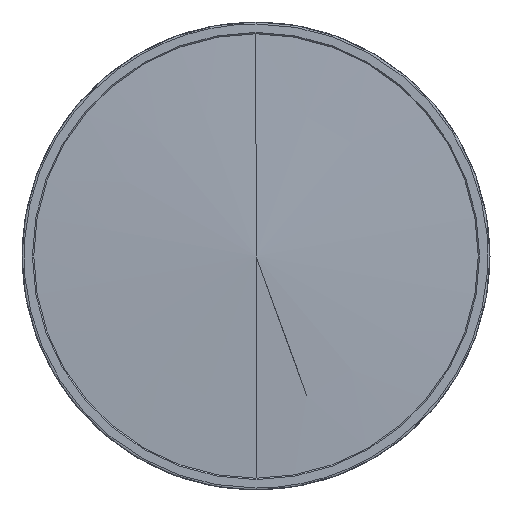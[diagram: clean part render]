
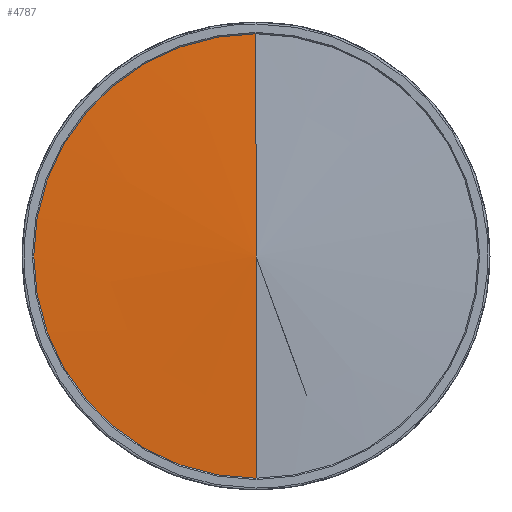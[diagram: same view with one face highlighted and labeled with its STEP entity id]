
A CAD part, left-side view. The second image highlights one B-rep face of the part: STEP entity #4787.
In plain terms, the highlighted conical face has half-angle 87.414 degrees and reference radius 176.573 mm.
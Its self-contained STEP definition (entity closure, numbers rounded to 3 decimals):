
#19 = EDGE_CURVE ( 'NONE', #5472, #1356, #3942, .T. ) ;
#24 = AXIS2_PLACEMENT_3D ( 'NONE', #2347, #1486, #184 ) ;
#184 = DIRECTION ( 'NONE',  ( 0., 0., -1. ) ) ;
#207 = VERTEX_POINT ( 'NONE', #3094 ) ;
#222 = CARTESIAN_POINT ( 'NONE',  ( 7.976, 0., 0. ) ) ;
#241 = DIRECTION ( 'NONE',  ( 1., 0., 0. ) ) ;
#286 = CARTESIAN_POINT ( 'NONE',  ( 7.679, 0., 170. ) ) ;
#352 = CARTESIAN_POINT ( 'NONE',  ( 7.679, 170., 0. ) ) ;
#380 = EDGE_CURVE ( 'NONE', #207, #4128, #2411, .T. ) ;
#487 = FACE_OUTER_BOUND ( 'NONE', #1228, .T. ) ;
#602 = AXIS2_PLACEMENT_3D ( 'NONE', #4626, #5085, #2891 ) ;
#612 = DIRECTION ( 'NONE',  ( 0.045, 0., 0.999 ) ) ;
#943 = EDGE_CURVE ( 'NONE', #4128, #5472, #4854, .T. ) ;
#1228 = EDGE_LOOP ( 'NONE', ( #5202, #4478, #4650, #5485 ) ) ;
#1356 = VERTEX_POINT ( 'NONE', #286 ) ;
#1448 = DIRECTION ( 'NONE',  ( 0.045, 0., -0.999 ) ) ;
#1486 = DIRECTION ( 'NONE',  ( 1., 0., 0. ) ) ;
#1602 = VECTOR ( 'NONE', #612, 1000. ) ;
#2347 = CARTESIAN_POINT ( 'NONE',  ( 7.679, 0., 0. ) ) ;
#2411 = LINE ( 'NONE', #4074, #4929 ) ;
#2799 = AXIS2_PLACEMENT_3D ( 'NONE', #222, #241, #4928 ) ;
#2890 = LINE ( 'NONE', #4548, #1602 ) ;
#2891 = DIRECTION ( 'NONE',  ( 0., 0., -1. ) ) ;
#3094 = CARTESIAN_POINT ( 'NONE',  ( 0., 0., 0. ) ) ;
#3942 = CIRCLE ( 'NONE', #602, 170. ) ;
#4074 = CARTESIAN_POINT ( 'NONE',  ( 7.976, 0., -176.573 ) ) ;
#4128 = VERTEX_POINT ( 'NONE', #4914 ) ;
#4478 = ORIENTED_EDGE ( 'NONE', *, *, #4786, .T. ) ;
#4548 = CARTESIAN_POINT ( 'NONE',  ( 7.976, 0., 176.573 ) ) ;
#4626 = CARTESIAN_POINT ( 'NONE',  ( 7.679, 0., 0. ) ) ;
#4650 = ORIENTED_EDGE ( 'NONE', *, *, #19, .F. ) ;
#4786 = EDGE_CURVE ( 'NONE', #207, #1356, #2890, .T. ) ;
#4787 = ADVANCED_FACE ( 'NONE', ( #487 ), #4856, .T. ) ;
#4854 = CIRCLE ( 'NONE', #24, 170. ) ;
#4856 = CONICAL_SURFACE ( 'NONE', #2799, 176.573, 1.526 ) ;
#4914 = CARTESIAN_POINT ( 'NONE',  ( 7.679, 0., -170. ) ) ;
#4928 = DIRECTION ( 'NONE',  ( 0., 0., -1. ) ) ;
#4929 = VECTOR ( 'NONE', #1448, 1000. ) ;
#5085 = DIRECTION ( 'NONE',  ( 1., 0., 0. ) ) ;
#5202 = ORIENTED_EDGE ( 'NONE', *, *, #380, .F. ) ;
#5472 = VERTEX_POINT ( 'NONE', #352 ) ;
#5485 = ORIENTED_EDGE ( 'NONE', *, *, #943, .F. ) ;
